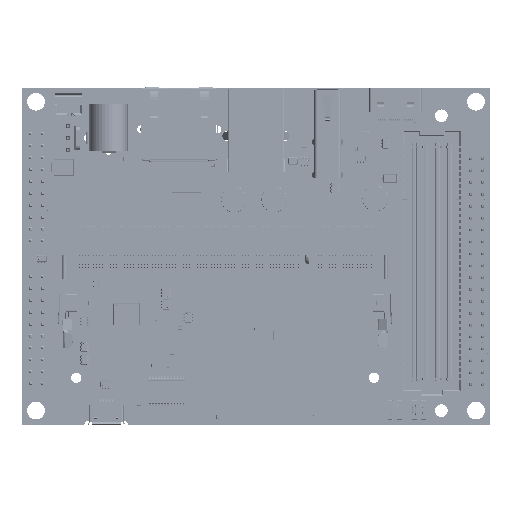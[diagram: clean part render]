
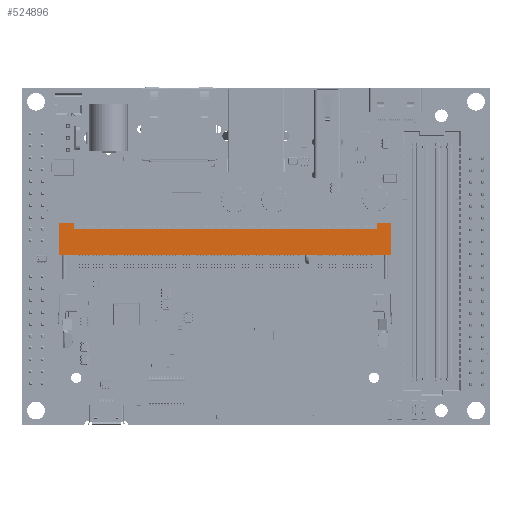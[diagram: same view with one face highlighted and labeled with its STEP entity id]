
A CAD part, top view. The second image highlights one B-rep face of the part: STEP entity #524896.
In plain terms, the highlighted planar face has unit normal (0, 0, 1).
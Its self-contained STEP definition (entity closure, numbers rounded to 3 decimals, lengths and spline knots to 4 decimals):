
#32569=FACE_OUTER_BOUND('',#59473,.T.);
#59473=EDGE_LOOP('',(#415437,#415438,#415439,#415440,#415441,#415442,#415443,
#415444,#415445,#415446,#415447,#415448,#415449,#415450,#415451,#415452));
#108309=LINE('',#802941,#173023);
#108311=LINE('',#802948,#173025);
#108314=LINE('',#802955,#173028);
#108719=LINE('',#803766,#173433);
#108722=LINE('',#803773,#173436);
#108736=LINE('',#803802,#173450);
#108748=LINE('',#803824,#173462);
#116099=LINE('',#821032,#180813);
#116124=LINE('',#821089,#180838);
#116125=LINE('',#821091,#180839);
#116126=LINE('',#821093,#180840);
#116127=LINE('',#821095,#180841);
#116128=LINE('',#821097,#180842);
#116129=LINE('',#821098,#180843);
#116130=LINE('',#821100,#180844);
#116131=LINE('',#821101,#180845);
#173023=VECTOR('',#645392,0.0229);
#173025=VECTOR('',#645398,0.124);
#173028=VECTOR('',#645403,2.5472);
#173433=VECTOR('',#645810,0.124);
#173436=VECTOR('',#645815,0.0229);
#173450=VECTOR('',#645839,0.0512);
#173462=VECTOR('',#645853,0.0512);
#180813=VECTOR('',#660832,0.2697);
#180838=VECTOR('',#660885,0.0338);
#180839=VECTOR('',#660886,2.0299);
#180840=VECTOR('',#660887,0.002);
#180841=VECTOR('',#660888,0.0039);
#180842=VECTOR('',#660889,0.002);
#180843=VECTOR('',#660890,0.648);
#180844=VECTOR('',#660891,0.0338);
#180845=VECTOR('',#660892,0.2697);
#230018=VERTEX_POINT('',#802939);
#230019=VERTEX_POINT('',#802940);
#230021=VERTEX_POINT('',#802945);
#230022=VERTEX_POINT('',#802947);
#230024=VERTEX_POINT('',#802953);
#230025=VERTEX_POINT('',#802954);
#230429=VERTEX_POINT('',#803763);
#230430=VERTEX_POINT('',#803765);
#230432=VERTEX_POINT('',#803771);
#230433=VERTEX_POINT('',#803772);
#236015=VERTEX_POINT('',#821030);
#236034=VERTEX_POINT('',#821090);
#236035=VERTEX_POINT('',#821092);
#236036=VERTEX_POINT('',#821094);
#236037=VERTEX_POINT('',#821096);
#236038=VERTEX_POINT('',#821099);
#293345=EDGE_CURVE('',#230018,#230019,#108309,.T.);
#293348=EDGE_CURVE('',#230022,#230021,#108311,.T.);
#293351=EDGE_CURVE('',#230024,#230025,#108314,.T.);
#293756=EDGE_CURVE('',#230430,#230429,#108719,.T.);
#293759=EDGE_CURVE('',#230432,#230433,#108722,.T.);
#293774=EDGE_CURVE('',#230025,#230022,#108736,.T.);
#293786=EDGE_CURVE('',#230429,#230024,#108748,.T.);
#302061=EDGE_CURVE('',#230021,#236015,#116099,.T.);
#302090=EDGE_CURVE('',#230018,#236015,#116124,.T.);
#302091=EDGE_CURVE('',#230019,#236034,#116125,.T.);
#302092=EDGE_CURVE('',#236034,#236035,#116126,.T.);
#302093=EDGE_CURVE('',#236036,#236035,#116127,.T.);
#302094=EDGE_CURVE('',#236036,#236037,#116128,.T.);
#302095=EDGE_CURVE('',#236037,#230432,#116129,.T.);
#302096=EDGE_CURVE('',#236038,#230433,#116130,.T.);
#302097=EDGE_CURVE('',#236038,#230430,#116131,.T.);
#415437=ORIENTED_EDGE('',*,*,#302090,.F.);
#415438=ORIENTED_EDGE('',*,*,#293345,.T.);
#415439=ORIENTED_EDGE('',*,*,#302091,.T.);
#415440=ORIENTED_EDGE('',*,*,#302092,.T.);
#415441=ORIENTED_EDGE('',*,*,#302093,.F.);
#415442=ORIENTED_EDGE('',*,*,#302094,.T.);
#415443=ORIENTED_EDGE('',*,*,#302095,.T.);
#415444=ORIENTED_EDGE('',*,*,#293759,.T.);
#415445=ORIENTED_EDGE('',*,*,#302096,.F.);
#415446=ORIENTED_EDGE('',*,*,#302097,.T.);
#415447=ORIENTED_EDGE('',*,*,#293756,.T.);
#415448=ORIENTED_EDGE('',*,*,#293786,.T.);
#415449=ORIENTED_EDGE('',*,*,#293351,.T.);
#415450=ORIENTED_EDGE('',*,*,#293774,.T.);
#415451=ORIENTED_EDGE('',*,*,#293348,.T.);
#415452=ORIENTED_EDGE('',*,*,#302061,.T.);
#474721=PLANE('',#560204);
#524896=ADVANCED_FACE('',(#32569),#474721,.T.);
#560204=AXIS2_PLACEMENT_3D('',#821088,#660883,#660884);
#645392=DIRECTION('',(1.,0.,0.));
#645398=DIRECTION('',(-1.,0.,0.));
#645403=DIRECTION('',(-1.,0.,0.));
#645810=DIRECTION('',(-1.,0.,0.));
#645815=DIRECTION('',(1.,0.,0.));
#645839=DIRECTION('',(0.,1.,0.));
#645853=DIRECTION('',(0.,-1.,0.));
#660832=DIRECTION('',(0.,-1.,0.));
#660883=DIRECTION('center_axis',(0.,0.,
1.));
#660884=DIRECTION('ref_axis',(0.,-1.,0.));
#660885=DIRECTION('',(-1.,0.,0.));
#660886=DIRECTION('',(1.,0.,0.));
#660887=DIRECTION('',(0.,-1.,0.));
#660888=DIRECTION('',(-1.,0.,0.));
#660889=DIRECTION('',(0.,1.,0.));
#660890=DIRECTION('',(1.,0.,0.));
#660891=DIRECTION('',(-1.,0.,0.));
#660892=DIRECTION('',(0.,1.,0.));
#802939=CARTESIAN_POINT('',(0.3449,1.4236,0.2079));
#802940=CARTESIAN_POINT('',(0.3677,1.4236,0.2079));
#802941=CARTESIAN_POINT('',(0.311,1.4236,0.2079));
#802945=CARTESIAN_POINT('',(0.311,1.6933,0.2079));
#802947=CARTESIAN_POINT('',(0.435,1.6933,0.2079));
#802948=CARTESIAN_POINT('',(0.311,1.6933,0.2079));
#802953=CARTESIAN_POINT('',(2.9823,1.6421,0.2079));
#802954=CARTESIAN_POINT('',(0.435,1.6421,0.2079));
#802955=CARTESIAN_POINT('',(0.311,1.6421,0.2079));
#803763=CARTESIAN_POINT('',(2.9823,1.6933,0.2079));
#803765=CARTESIAN_POINT('',(3.1063,1.6933,0.2079));
#803766=CARTESIAN_POINT('',(0.311,1.6933,0.2079));
#803771=CARTESIAN_POINT('',(3.0496,1.4236,0.2079));
#803772=CARTESIAN_POINT('',(3.0725,1.4236,0.2079));
#803773=CARTESIAN_POINT('',(0.311,1.4236,0.2079));
#803802=CARTESIAN_POINT('',(0.435,1.6933,0.2079));
#803824=CARTESIAN_POINT('',(2.9823,1.6421,0.2079));
#821030=CARTESIAN_POINT('',(0.311,1.4236,0.2079));
#821032=CARTESIAN_POINT('',(0.311,1.6933,0.2079));
#821088=CARTESIAN_POINT('Origin',(0.311,1.6933,0.2079));
#821089=CARTESIAN_POINT('',(0.311,1.4236,0.2079));
#821090=CARTESIAN_POINT('',(2.3976,1.4236,0.2079));
#821091=CARTESIAN_POINT('',(0.311,1.4236,0.2079));
#821092=CARTESIAN_POINT('',(2.3976,1.4217,0.2079));
#821093=CARTESIAN_POINT('',(2.3976,1.6933,0.2079));
#821094=CARTESIAN_POINT('',(2.4016,1.4217,0.2079));
#821095=CARTESIAN_POINT('',(2.3819,1.4217,0.2079));
#821096=CARTESIAN_POINT('',(2.4016,1.4236,0.2079));
#821097=CARTESIAN_POINT('',(2.4016,1.6933,0.2079));
#821098=CARTESIAN_POINT('',(0.311,1.4236,0.2079));
#821099=CARTESIAN_POINT('',(3.1063,1.4236,0.2079));
#821100=CARTESIAN_POINT('',(0.311,1.4236,0.2079));
#821101=CARTESIAN_POINT('',(3.1063,1.6933,0.2079));
